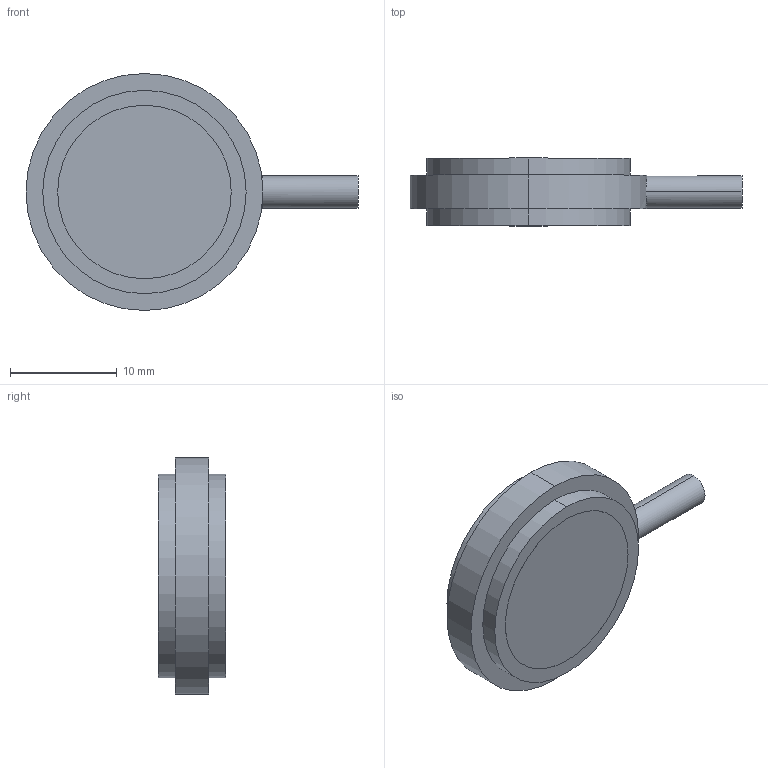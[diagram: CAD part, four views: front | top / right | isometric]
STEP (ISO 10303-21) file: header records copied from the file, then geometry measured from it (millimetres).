
FILE_DESCRIPTION (( 'STEP AP203' ), '1' );
FILE_NAME ('4SB.STEP', '2010-03-05T18:51:35', ( 'tom edwards' ), ( 'Tom J. Edwards' ), 'SwSTEP 2.0', 'SolidWorks 2008', '' );
FILE_SCHEMA (( 'CONFIG_CONTROL_DESIGN' ));
Length unit declared in the file: inch
Products named in the file (1): 4SB
Bounding box: 31.1 x 6.34 x 22.2 mm (x, y, z)
Volume: 2191.5 mm3; surface area: 1269.2 mm2
Topology: 1 solids, 1 shells, 19 faces, 36 edges, 24 vertices
Faces by surface type: cylinder 12, plane 7
Entity records: 617 total; most frequent: CARTESIAN_POINT 130, DIRECTION 96, ORIENTED_EDGE 72, AXIS2_PLACEMENT_3D 42, EDGE_CURVE 36, VERTEX_POINT 24, EDGE_LOOP 24, CIRCLE 22
